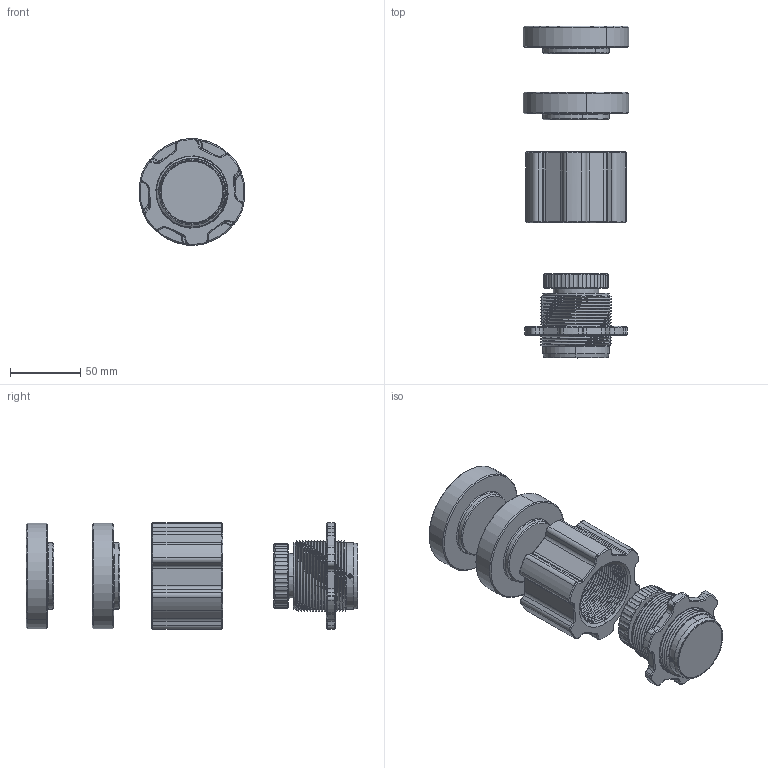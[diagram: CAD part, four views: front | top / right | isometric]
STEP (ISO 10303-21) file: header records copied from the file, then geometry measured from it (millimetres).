
FILE_DESCRIPTION (( 'STEP AP214' ), '1' );
FILE_NAME ('MX-150-JS_Protected_RevA.STEP', '2018-07-25T22:48:49', ( '' ), ( '' ), 'SwSTEP 2.0', 'SolidWorks 2017', '' );
FILE_SCHEMA (( 'AUTOMOTIVE_DESIGN' ));
Length unit declared in the file: inch
Products named in the file (12): Label_Logo_1.625OD; MX-150-JS_Protected_RevA; Lock_Nut_Threaded_Cylinder_RevB; MX-150-JS_Plunger_Protected_RevA; Knob_Protected_RevD; Vise_Nut_RevA; FHSC_10-32x1.00L_SS_MMC_90585A992_90585A991; Lower_Platter_Protected_MX-150-AL_RevD; Housing_Threaded_Protected_RevC; Upper_Platter_Protected_MX-150-AL_RevD; 91598A252_STEEL COILED SPRING PIN_91598A252; Vise_Riser_RevA
Assembly tree (13 placements, depth 2):
  MX-150-JS_Protected_RevA
    Lower_Platter_Protected_MX-150-AL_RevD
    Upper_Platter_Protected_MX-150-AL_RevD
    Housing_Threaded_Protected_RevC
    MX-150-JS_Plunger_Protected_RevA
    Knob_Protected_RevD
    91598A252_STEEL COILED SPRING PIN_91598A252  x2
    FHSC_10-32x1.00L_SS_MMC_90585A992_90585A991
    Lock_Nut_Threaded_Cylinder_RevB
    Label_Logo_1.625OD
    Vise_Nut_RevA
    Vise_Riser_RevA  x2
Bounding box: 75.67 x 237.03 x 76.19 mm (x, y, z)
Volume: 330819.7 mm3; surface area: 107301.3 mm2
Topology: 13 solids, 13 shells, 928 faces, 2342 edges, 1451 vertices
Faces by surface type: cylinder 465, cone 267, plane 163, bspline 23, torus 10
Entity records: 45338 total; most frequent: CARTESIAN_POINT 24706, ORIENTED_EDGE 4490, DIRECTION 3907, EDGE_CURVE 2245, AXIS2_PLACEMENT_3D 1492, VERTEX_POINT 1393, VECTOR 923, LINE 923
